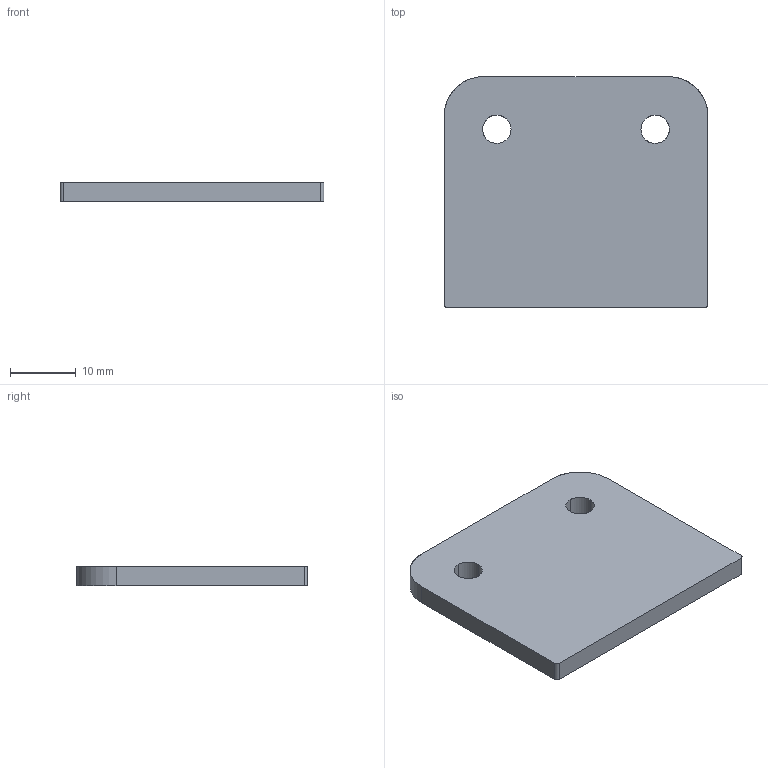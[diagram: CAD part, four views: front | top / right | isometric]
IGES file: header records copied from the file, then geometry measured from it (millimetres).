
Start section: START RECORD GO HERE.
Global section: file name: 20M_AE_11003 (chape haut aile avant).igs; native system: IBM CATIA IGES - CATIA Version 5 Release 19 ; preprocessor: CATIA Version 5 Release 19 ; author: mik75; organization: LAPTOP-SUH344G9; date: 20200116.001119; units: millimetre
Bounding box: 40 x 35 x 3 mm (x, y, z)
Surface area: 3225.1 mm2 (no closed solid volume)
Topology: 0 solids, 0 shells, 18 faces, 96 edges, 96 vertices
Faces by surface type: revolution 12, plane 6
